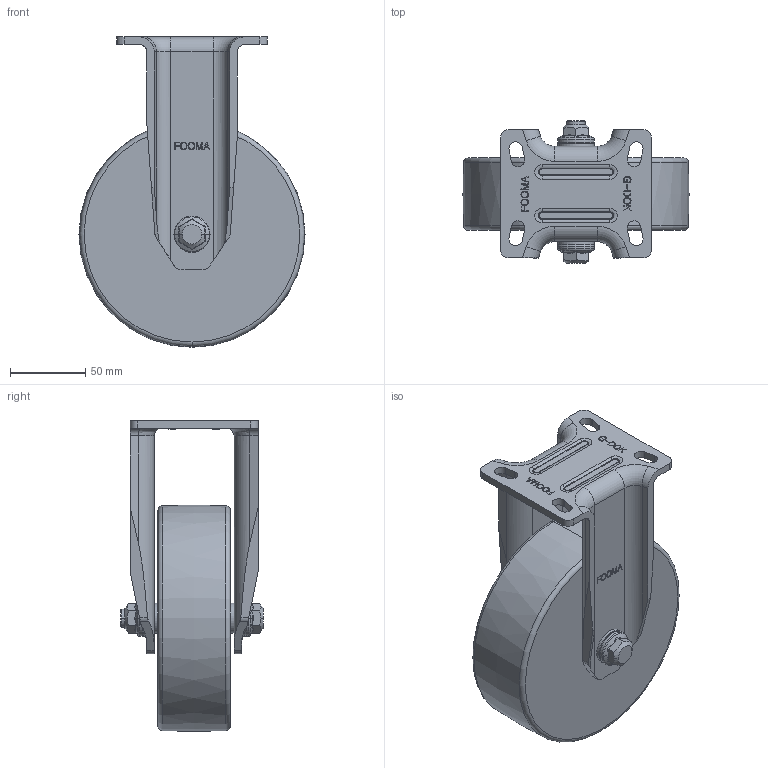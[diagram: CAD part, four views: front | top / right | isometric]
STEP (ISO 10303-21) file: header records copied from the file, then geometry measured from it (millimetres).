
FILE_DESCRIPTION((''),'2;1');
FILE_NAME('PH-150-ARF-MCD.stp','2013-04-30T14:47:52',(''),(''),'Mechanical Desktop 2009','Mechanical Desktop 2009',', , ');
FILE_SCHEMA(('CONFIG_CONTROL_DESIGN'));
Length unit declared in the file: millimetre
Products named in the file (2): PH-150-ARF-MCD; RFFRAME
Assembly tree (1 placements, depth 2):
  PH-150-ARF-MCD
    RFFRAME
Bounding box: 150 x 94.8 x 205.95 mm (x, y, z)
Volume: 977483.8 mm3; surface area: 113152.1 mm2
Topology: 1 solids, 1 shells, 645 faces, 1744 edges, 1142 vertices
Faces by surface type: bspline 350, plane 195, cylinder 74, torus 16, cone 10
Entity records: 23397 total; most frequent: CARTESIAN_POINT 9311, ORIENTED_EDGE 3488, DIRECTION 1866, EDGE_CURVE 1744, VERTEX_POINT 1142, VECTOR 832, LINE 832, EDGE_LOOP 696
